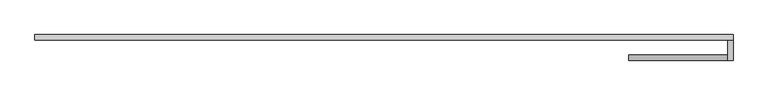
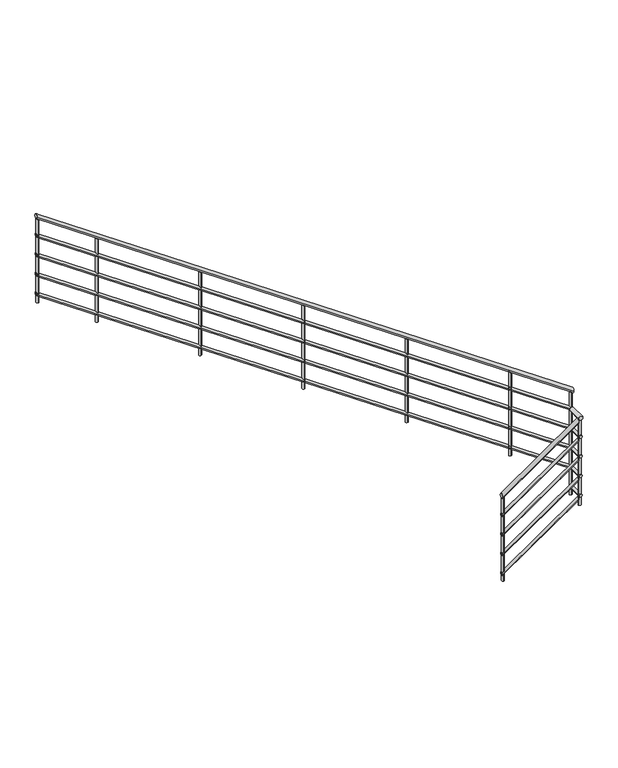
"""IFC4 building model written with IfcOpenShell, lengths in millimetres: railing geometry, r パイプ H900."""

from ifc_helpers import new_model, si_unit, point, frame, frame_2d, origin, place, context, project, spatial, circle_curve, ellipse_curve, trimmed, segment, composite_curve, outline, extrude, source, transform, mapped, element, save
from ifc_brep_helpers import plane_surface, cylinder_surface, advanced_brep


def railing_328e5c47(model_context):
    return source(origin(), model_context, "Body", "SolidModel", [
        advanced_brep(
        [(-1975.9784025, 8754.6868987, 1155.6747872), (-1975.9784025, 8794.6868987, 1155.6747872), (-1240.9784025, 8754.6868987, 1664.5209411), (-1240.9784025, 8794.6868987, 1664.5209411)],
        [
            (0, 1, ellipse_curve(frame((-1975.9784025, 8774.6868987, 1155.6747872), z_axis=(-1.0, 0.0, 0.0), x_axis=(0.0, 0.0, -1.0)), 24.3252128, 20.0)),
            (1, 0, ellipse_curve(frame((-1975.9784025, 8774.6868987, 1155.6747872), z_axis=(-1.0, 0.0, 0.0), x_axis=(0.0, 0.0, -1.0)), 24.3252128, 20.0)),
            (2, 3, ellipse_curve(frame((-1240.9784025, 8774.6868987, 1664.5209411), z_axis=(1.0, 0.0, 0.0), x_axis=(0.0, 0.0, -1.0)), 24.3252128, 20.0)),
            (3, 2, ellipse_curve(frame((-1240.9784025, 8774.6868987, 1664.5209411), z_axis=(1.0, 0.0, 0.0), x_axis=(0.0, 0.0, -1.0)), 24.3252128, 20.0)),
            (0, 2),
            (3, 1),
        ],
        [
            plane_surface(frame((-1975.9784025, 8774.6868987, 1180.0), z_axis=(-1.0, 0.0, 0.0), x_axis=(0.0, 1.0, 0.0))),
            plane_surface(frame((-1240.9784025, 8774.6868987, 1688.8461538), z_axis=(1.0, 0.0, 0.0), x_axis=(0.0, 1.0, 0.0))),
            cylinder_surface(frame((-1964.5942029, 8774.6868987, 1163.5561562), z_axis=(-0.8221921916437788, 0.0, -0.5692099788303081), x_axis=(0.0, 1.0, 0.0)), 20.0),
        ],
        [
            (0, [[1, 2]]),
            (1, [[3, 4]]),
            (2, [[-1, 5, -4, 6]]),
            (2, [[-2, -6, -3, -5]]),
        ],
    ),
        advanced_brep(
        [(-1200.9784025, 8754.6868987, 1700.0), (-1240.9784025, 8754.6868987, 1700.0), (-1200.9784025, 8904.6868987, 1700.0), (-1240.9784025, 8904.6868987, 1700.0)],
        [
            (0, 1, circle_curve(frame((-1220.9784025, 8754.6868987, 1700.0), z_axis=(0.0, -1.0, 0.0), x_axis=(-1.0, 0.0, 0.0)), 20.0)),
            (1, 0, circle_curve(frame((-1220.9784025, 8754.6868987, 1700.0), z_axis=(0.0, -1.0, 0.0), x_axis=(-1.0, 0.0, 0.0)), 20.0)),
            (2, 3, circle_curve(frame((-1220.9784025, 8904.6868987, 1700.0), z_axis=(0.0, 1.0, 0.0), x_axis=(-1.0, 0.0, 0.0)), 20.0)),
            (3, 2, circle_curve(frame((-1220.9784025, 8904.6868987, 1700.0), z_axis=(0.0, 1.0, 0.0), x_axis=(-1.0, 0.0, 0.0)), 20.0)),
            (0, 2),
            (3, 1),
        ],
        [
            plane_surface(frame((-1220.9784025, 8754.6868987, 1720.0), z_axis=(0.0, -1.0, 0.0), x_axis=(0.0, 0.0, 1.0))),
            plane_surface(frame((-1220.9784025, 8904.6868987, 1720.0), z_axis=(0.0, 1.0, 0.0), x_axis=(0.0, 0.0, 1.0))),
            cylinder_surface(frame((-1220.9784025, 8754.6868987, 1700.0), z_axis=(0.0, -1.0, 0.0), x_axis=(-1.0, 0.0, 0.0)), 20.0),
        ],
        [
            (0, [[1, 2]]),
            (1, [[3, 4]]),
            (2, [[-1, 5, -4, 6]]),
            (2, [[-2, -6, -3, -5]]),
        ],
    ),
        advanced_brep(
        [(-1200.9784025, 8944.6868987, 1879.1363257), (-1200.9784025, 8904.6868987, 1879.1363257), (-6395.9784025, 8944.6868987, 5475.6747872), (-6395.9784025, 8904.6868987, 5475.6747872)],
        [
            (0, 1, ellipse_curve(frame((-1200.9784025, 8924.6868987, 1879.1363257), z_axis=(1.0, 0.0, 0.0), x_axis=(0.0, 0.0, -1.0)), 24.3252128, 20.0)),
            (1, 0, ellipse_curve(frame((-1200.9784025, 8924.6868987, 1879.1363257), z_axis=(1.0, 0.0, 0.0), x_axis=(0.0, 0.0, -1.0)), 24.3252128, 20.0)),
            (2, 3, ellipse_curve(frame((-6395.9784025, 8924.6868987, 5475.6747872), z_axis=(-1.0, 0.0, 0.0), x_axis=(0.0, 0.0, -1.0)), 24.3252128, 20.0)),
            (3, 2, ellipse_curve(frame((-6395.9784025, 8924.6868987, 5475.6747872), z_axis=(-1.0, 0.0, 0.0), x_axis=(0.0, 0.0, -1.0)), 24.3252128, 20.0)),
            (0, 2),
            (3, 1),
        ],
        [
            plane_surface(frame((-1200.9784025, 8924.6868987, 1903.4615385), z_axis=(1.0, 0.0, 0.0), x_axis=(0.0, -1.0, 0.0))),
            plane_surface(frame((-6395.9784025, 8924.6868987, 5500.0), z_axis=(-1.0, 0.0, 0.0), x_axis=(0.0, -1.0, 0.0))),
            cylinder_surface(frame((-1212.3626021, 8924.6868987, 1887.0176946), z_axis=(0.8221921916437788, 0.0, -0.5692099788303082), x_axis=(0.0, -1.0, 0.0)), 20.0),
        ],
        [
            (0, [[1, 2]]),
            (1, [[3, 4]]),
            (2, [[-1, 5, -4, 6]]),
            (2, [[-2, -6, -3, -5]]),
        ],
    ),
        advanced_brep(
        [(-1975.9784025, 8759.6868987, 961.7560904), (-1975.9784025, 8789.6868987, 961.7560904), (-1235.9784025, 8759.6868987, 1474.0637827), (-1235.9784025, 8789.6868987, 1474.0637827)],
        [
            (0, 1, ellipse_curve(frame((-1975.9784025, 8774.6868987, 961.7560904), z_axis=(-1.0, 0.0, 0.0), x_axis=(0.0, 0.0, -1.0)), 18.2439096, 15.0)),
            (1, 0, ellipse_curve(frame((-1975.9784025, 8774.6868987, 961.7560904), z_axis=(-1.0, 0.0, 0.0), x_axis=(0.0, 0.0, -1.0)), 18.2439096, 15.0)),
            (2, 3, ellipse_curve(frame((-1235.9784025, 8774.6868987, 1474.0637827), z_axis=(1.0, 0.0, 0.0), x_axis=(0.0, 0.0, -1.0)), 18.2439096, 15.0)),
            (3, 2, ellipse_curve(frame((-1235.9784025, 8774.6868987, 1474.0637827), z_axis=(1.0, 0.0, 0.0), x_axis=(0.0, 0.0, -1.0)), 18.2439096, 15.0)),
            (0, 2),
            (3, 1),
        ],
        [
            plane_surface(frame((-1975.9784025, 8774.6868987, 980.0), z_axis=(-1.0, 0.0, 0.0), x_axis=(0.0, 1.0, 0.0))),
            plane_surface(frame((-1235.9784025, 8774.6868987, 1492.3076923), z_axis=(1.0, 0.0, 0.0), x_axis=(0.0, 1.0, 0.0))),
            cylinder_surface(frame((-1967.4402528, 8774.6868987, 967.6671171), z_axis=(-0.8221921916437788, 0.0, -0.5692099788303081), x_axis=(0.0, 1.0, 0.0)), 15.0),
        ],
        [
            (0, [[1, 2]]),
            (1, [[3, 4]]),
            (2, [[-1, 5, -4, 6]]),
            (2, [[-2, -6, -3, -5]]),
        ],
    ),
        advanced_brep(
        [(-1205.9784025, 8759.6868987, 1505.0), (-1235.9784025, 8759.6868987, 1505.0), (-1205.9784025, 8909.6868987, 1505.0), (-1235.9784025, 8909.6868987, 1505.0)],
        [
            (0, 1, circle_curve(frame((-1220.9784025, 8759.6868987, 1505.0), z_axis=(0.0, -1.0, 0.0), x_axis=(-1.0, 0.0, 0.0)), 15.0)),
            (1, 0, circle_curve(frame((-1220.9784025, 8759.6868987, 1505.0), z_axis=(0.0, -1.0, 0.0), x_axis=(-1.0, 0.0, 0.0)), 15.0)),
            (2, 3, circle_curve(frame((-1220.9784025, 8909.6868987, 1505.0), z_axis=(0.0, 1.0, 0.0), x_axis=(-1.0, 0.0, 0.0)), 15.0)),
            (3, 2, circle_curve(frame((-1220.9784025, 8909.6868987, 1505.0), z_axis=(0.0, 1.0, 0.0), x_axis=(-1.0, 0.0, 0.0)), 15.0)),
            (0, 2),
            (3, 1),
        ],
        [
            plane_surface(frame((-1220.9784025, 8759.6868987, 1520.0), z_axis=(0.0, -1.0, 0.0), x_axis=(0.0, 0.0, 1.0))),
            plane_surface(frame((-1220.9784025, 8909.6868987, 1520.0), z_axis=(0.0, 1.0, 0.0), x_axis=(0.0, 0.0, 1.0))),
            cylinder_surface(frame((-1220.9784025, 8759.6868987, 1505.0), z_axis=(0.0, -1.0, 0.0), x_axis=(-1.0, 0.0, 0.0)), 15.0),
        ],
        [
            (0, [[1, 2]]),
            (1, [[3, 4]]),
            (2, [[-1, 5, -4, 6]]),
            (2, [[-2, -6, -3, -5]]),
        ],
    ),
        advanced_brep(
        [(-1205.9784025, 8939.6868987, 1688.6791673), (-1205.9784025, 8909.6868987, 1688.6791673), (-6395.9784025, 8939.6868987, 5281.7560904), (-6395.9784025, 8909.6868987, 5281.7560904)],
        [
            (0, 1, ellipse_curve(frame((-1205.9784025, 8924.6868987, 1688.6791673), z_axis=(1.0, 0.0, 0.0), x_axis=(0.0, 0.0, -1.0)), 18.2439096, 15.0)),
            (1, 0, ellipse_curve(frame((-1205.9784025, 8924.6868987, 1688.6791673), z_axis=(1.0, 0.0, 0.0), x_axis=(0.0, 0.0, -1.0)), 18.2439096, 15.0)),
            (2, 3, ellipse_curve(frame((-6395.9784025, 8924.6868987, 5281.7560904), z_axis=(-1.0, 0.0, 0.0), x_axis=(0.0, 0.0, -1.0)), 18.2439096, 15.0)),
            (3, 2, ellipse_curve(frame((-6395.9784025, 8924.6868987, 5281.7560904), z_axis=(-1.0, 0.0, 0.0), x_axis=(0.0, 0.0, -1.0)), 18.2439096, 15.0)),
            (0, 2),
            (3, 1),
        ],
        [
            plane_surface(frame((-1205.9784025, 8924.6868987, 1706.9230769), z_axis=(1.0, 0.0, 0.0), x_axis=(0.0, -1.0, 0.0))),
            plane_surface(frame((-6395.9784025, 8924.6868987, 5300.0), z_axis=(-1.0, 0.0, 0.0), x_axis=(0.0, -1.0, 0.0))),
            cylinder_surface(frame((-1214.5165522, 8924.6868987, 1694.590194), z_axis=(0.8221921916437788, 0.0, -0.5692099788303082), x_axis=(0.0, -1.0, 0.0)), 15.0),
        ],
        [
            (0, [[1, 2]]),
            (1, [[3, 4]]),
            (2, [[-1, 5, -4, 6]]),
            (2, [[-2, -6, -3, -5]]),
        ],
    ),
        advanced_brep(
        [(-1975.9784025, 8759.6868987, 761.7560904), (-1975.9784025, 8789.6868987, 761.7560904), (-1235.9784025, 8759.6868987, 1274.0637827), (-1235.9784025, 8789.6868987, 1274.0637827)],
        [
            (0, 1, ellipse_curve(frame((-1975.9784025, 8774.6868987, 761.7560904), z_axis=(-1.0, 0.0, 0.0), x_axis=(0.0, 0.0, -1.0)), 18.2439096, 15.0)),
            (1, 0, ellipse_curve(frame((-1975.9784025, 8774.6868987, 761.7560904), z_axis=(-1.0, 0.0, 0.0), x_axis=(0.0, 0.0, -1.0)), 18.2439096, 15.0)),
            (2, 3, ellipse_curve(frame((-1235.9784025, 8774.6868987, 1274.0637827), z_axis=(1.0, 0.0, 0.0), x_axis=(0.0, 0.0, -1.0)), 18.2439096, 15.0)),
            (3, 2, ellipse_curve(frame((-1235.9784025, 8774.6868987, 1274.0637827), z_axis=(1.0, 0.0, 0.0), x_axis=(0.0, 0.0, -1.0)), 18.2439096, 15.0)),
            (0, 2),
            (3, 1),
        ],
        [
            plane_surface(frame((-1975.9784025, 8774.6868987, 780.0), z_axis=(-1.0, 0.0, 0.0), x_axis=(0.0, 1.0, 0.0))),
            plane_surface(frame((-1235.9784025, 8774.6868987, 1292.3076923), z_axis=(1.0, 0.0, 0.0), x_axis=(0.0, 1.0, 0.0))),
            cylinder_surface(frame((-1967.4402528, 8774.6868987, 767.6671171), z_axis=(-0.8221921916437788, 0.0, -0.5692099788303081), x_axis=(0.0, 1.0, 0.0)), 15.0),
        ],
        [
            (0, [[1, 2]]),
            (1, [[3, 4]]),
            (2, [[-1, 5, -4, 6]]),
            (2, [[-2, -6, -3, -5]]),
        ],
    ),
        advanced_brep(
        [(-1205.9784025, 8759.6868987, 1305.0), (-1235.9784025, 8759.6868987, 1305.0), (-1205.9784025, 8909.6868987, 1305.0), (-1235.9784025, 8909.6868987, 1305.0)],
        [
            (0, 1, circle_curve(frame((-1220.9784025, 8759.6868987, 1305.0), z_axis=(0.0, -1.0, 0.0), x_axis=(-1.0, 0.0, 0.0)), 15.0)),
            (1, 0, circle_curve(frame((-1220.9784025, 8759.6868987, 1305.0), z_axis=(0.0, -1.0, 0.0), x_axis=(-1.0, 0.0, 0.0)), 15.0)),
            (2, 3, circle_curve(frame((-1220.9784025, 8909.6868987, 1305.0), z_axis=(0.0, 1.0, 0.0), x_axis=(-1.0, 0.0, 0.0)), 15.0)),
            (3, 2, circle_curve(frame((-1220.9784025, 8909.6868987, 1305.0), z_axis=(0.0, 1.0, 0.0), x_axis=(-1.0, 0.0, 0.0)), 15.0)),
            (0, 2),
            (3, 1),
        ],
        [
            plane_surface(frame((-1220.9784025, 8759.6868987, 1320.0), z_axis=(0.0, -1.0, 0.0), x_axis=(0.0, 0.0, 1.0))),
            plane_surface(frame((-1220.9784025, 8909.6868987, 1320.0), z_axis=(0.0, 1.0, 0.0), x_axis=(0.0, 0.0, 1.0))),
            cylinder_surface(frame((-1220.9784025, 8759.6868987, 1305.0), z_axis=(0.0, -1.0, 0.0), x_axis=(-1.0, 0.0, 0.0)), 15.0),
        ],
        [
            (0, [[1, 2]]),
            (1, [[3, 4]]),
            (2, [[-1, 5, -4, 6]]),
            (2, [[-2, -6, -3, -5]]),
        ],
    ),
        advanced_brep(
        [(-1205.9784025, 8939.6868987, 1488.6791673), (-1205.9784025, 8909.6868987, 1488.6791673), (-6395.9784025, 8939.6868987, 5081.7560904), (-6395.9784025, 8909.6868987, 5081.7560904)],
        [
            (0, 1, ellipse_curve(frame((-1205.9784025, 8924.6868987, 1488.6791673), z_axis=(1.0, 0.0, 0.0), x_axis=(0.0, 0.0, -1.0)), 18.2439096, 15.0)),
            (1, 0, ellipse_curve(frame((-1205.9784025, 8924.6868987, 1488.6791673), z_axis=(1.0, 0.0, 0.0), x_axis=(0.0, 0.0, -1.0)), 18.2439096, 15.0)),
            (2, 3, ellipse_curve(frame((-6395.9784025, 8924.6868987, 5081.7560904), z_axis=(-1.0, 0.0, 0.0), x_axis=(0.0, 0.0, -1.0)), 18.2439096, 15.0)),
            (3, 2, ellipse_curve(frame((-6395.9784025, 8924.6868987, 5081.7560904), z_axis=(-1.0, 0.0, 0.0), x_axis=(0.0, 0.0, -1.0)), 18.2439096, 15.0)),
            (0, 2),
            (3, 1),
        ],
        [
            plane_surface(frame((-1205.9784025, 8924.6868987, 1506.9230769), z_axis=(1.0, 0.0, 0.0), x_axis=(0.0, -1.0, 0.0))),
            plane_surface(frame((-6395.9784025, 8924.6868987, 5100.0), z_axis=(-1.0, 0.0, 0.0), x_axis=(0.0, -1.0, 0.0))),
            cylinder_surface(frame((-1214.5165522, 8924.6868987, 1494.590194), z_axis=(0.8221921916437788, 0.0, -0.5692099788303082), x_axis=(0.0, -1.0, 0.0)), 15.0),
        ],
        [
            (0, [[1, 2]]),
            (1, [[3, 4]]),
            (2, [[-1, 5, -4, 6]]),
            (2, [[-2, -6, -3, -5]]),
        ],
    ),
        advanced_brep(
        [(-1975.9784025, 8759.6868987, 561.7560904), (-1975.9784025, 8789.6868987, 561.7560904), (-1235.9784025, 8759.6868987, 1074.0637827), (-1235.9784025, 8789.6868987, 1074.0637827)],
        [
            (0, 1, ellipse_curve(frame((-1975.9784025, 8774.6868987, 561.7560904), z_axis=(-1.0, 0.0, 0.0), x_axis=(0.0, 0.0, -1.0)), 18.2439096, 15.0)),
            (1, 0, ellipse_curve(frame((-1975.9784025, 8774.6868987, 561.7560904), z_axis=(-1.0, 0.0, 0.0), x_axis=(0.0, 0.0, -1.0)), 18.2439096, 15.0)),
            (2, 3, ellipse_curve(frame((-1235.9784025, 8774.6868987, 1074.0637827), z_axis=(1.0, 0.0, 0.0), x_axis=(0.0, 0.0, -1.0)), 18.2439096, 15.0)),
            (3, 2, ellipse_curve(frame((-1235.9784025, 8774.6868987, 1074.0637827), z_axis=(1.0, 0.0, 0.0), x_axis=(0.0, 0.0, -1.0)), 18.2439096, 15.0)),
            (0, 2),
            (3, 1),
        ],
        [
            plane_surface(frame((-1975.9784025, 8774.6868987, 580.0), z_axis=(-1.0, 0.0, 0.0), x_axis=(0.0, 1.0, 0.0))),
            plane_surface(frame((-1235.9784025, 8774.6868987, 1092.3076923), z_axis=(1.0, 0.0, 0.0), x_axis=(0.0, 1.0, 0.0))),
            cylinder_surface(frame((-1967.4402528, 8774.6868987, 567.6671171), z_axis=(-0.8221921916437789, 0.0, -0.5692099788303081), x_axis=(0.0, 1.0, 0.0)), 15.0),
        ],
        [
            (0, [[1, 2]]),
            (1, [[3, 4]]),
            (2, [[-1, 5, -4, 6]]),
            (2, [[-2, -6, -3, -5]]),
        ],
    ),
        advanced_brep(
        [(-1205.9784025, 8759.6868987, 1105.0), (-1235.9784025, 8759.6868987, 1105.0), (-1205.9784025, 8909.6868987, 1105.0), (-1235.9784025, 8909.6868987, 1105.0)],
        [
            (0, 1, circle_curve(frame((-1220.9784025, 8759.6868987, 1105.0), z_axis=(0.0, -1.0, 0.0), x_axis=(-1.0, 0.0, 0.0)), 15.0)),
            (1, 0, circle_curve(frame((-1220.9784025, 8759.6868987, 1105.0), z_axis=(0.0, -1.0, 0.0), x_axis=(-1.0, 0.0, 0.0)), 15.0)),
            (2, 3, circle_curve(frame((-1220.9784025, 8909.6868987, 1105.0), z_axis=(0.0, 1.0, 0.0), x_axis=(-1.0, 0.0, 0.0)), 15.0)),
            (3, 2, circle_curve(frame((-1220.9784025, 8909.6868987, 1105.0), z_axis=(0.0, 1.0, 0.0), x_axis=(-1.0, 0.0, 0.0)), 15.0)),
            (0, 2),
            (3, 1),
        ],
        [
            plane_surface(frame((-1220.9784025, 8759.6868987, 1120.0), z_axis=(0.0, -1.0, 0.0), x_axis=(0.0, 0.0, 1.0))),
            plane_surface(frame((-1220.9784025, 8909.6868987, 1120.0), z_axis=(0.0, 1.0, 0.0), x_axis=(0.0, 0.0, 1.0))),
            cylinder_surface(frame((-1220.9784025, 8759.6868987, 1105.0), z_axis=(0.0, -1.0, 0.0), x_axis=(-1.0, 0.0, 0.0)), 15.0),
        ],
        [
            (0, [[1, 2]]),
            (1, [[3, 4]]),
            (2, [[-1, 5, -4, 6]]),
            (2, [[-2, -6, -3, -5]]),
        ],
    ),
        advanced_brep(
        [(-1205.9784025, 8939.6868987, 1288.6791673), (-1205.9784025, 8909.6868987, 1288.6791673), (-6395.9784025, 8939.6868987, 4881.7560904), (-6395.9784025, 8909.6868987, 4881.7560904)],
        [
            (0, 1, ellipse_curve(frame((-1205.9784025, 8924.6868987, 1288.6791673), z_axis=(1.0, 0.0, 0.0), x_axis=(0.0, 0.0, -1.0)), 18.2439096, 15.0)),
            (1, 0, ellipse_curve(frame((-1205.9784025, 8924.6868987, 1288.6791673), z_axis=(1.0, 0.0, 0.0), x_axis=(0.0, 0.0, -1.0)), 18.2439096, 15.0)),
            (2, 3, ellipse_curve(frame((-6395.9784025, 8924.6868987, 4881.7560904), z_axis=(-1.0, 0.0, 0.0), x_axis=(0.0, 0.0, -1.0)), 18.2439096, 15.0)),
            (3, 2, ellipse_curve(frame((-6395.9784025, 8924.6868987, 4881.7560904), z_axis=(-1.0, 0.0, 0.0), x_axis=(0.0, 0.0, -1.0)), 18.2439096, 15.0)),
            (0, 2),
            (3, 1),
        ],
        [
            plane_surface(frame((-1205.9784025, 8924.6868987, 1306.9230769), z_axis=(1.0, 0.0, 0.0), x_axis=(0.0, -1.0, 0.0))),
            plane_surface(frame((-6395.9784025, 8924.6868987, 4900.0), z_axis=(-1.0, 0.0, 0.0), x_axis=(0.0, -1.0, 0.0))),
            cylinder_surface(frame((-1214.5165522, 8924.6868987, 1294.590194), z_axis=(0.8221921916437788, 0.0, -0.5692099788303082), x_axis=(0.0, -1.0, 0.0)), 15.0),
        ],
        [
            (0, [[1, 2]]),
            (1, [[3, 4]]),
            (2, [[-1, 5, -4, 6]]),
            (2, [[-2, -6, -3, -5]]),
        ],
    ),
        advanced_brep(
        [(-1975.9784025, 8759.6868987, 361.7560904), (-1975.9784025, 8789.6868987, 361.7560904), (-1235.9784025, 8759.6868987, 874.0637827), (-1235.9784025, 8789.6868987, 874.0637827)],
        [
            (0, 1, ellipse_curve(frame((-1975.9784025, 8774.6868987, 361.7560904), z_axis=(-1.0, 0.0, 0.0), x_axis=(0.0, 0.0, -1.0)), 18.2439096, 15.0)),
            (1, 0, ellipse_curve(frame((-1975.9784025, 8774.6868987, 361.7560904), z_axis=(-1.0, 0.0, 0.0), x_axis=(0.0, 0.0, -1.0)), 18.2439096, 15.0)),
            (2, 3, ellipse_curve(frame((-1235.9784025, 8774.6868987, 874.0637827), z_axis=(1.0, 0.0, 0.0), x_axis=(0.0, 0.0, -1.0)), 18.2439096, 15.0)),
            (3, 2, ellipse_curve(frame((-1235.9784025, 8774.6868987, 874.0637827), z_axis=(1.0, 0.0, 0.0), x_axis=(0.0, 0.0, -1.0)), 18.2439096, 15.0)),
            (0, 2),
            (3, 1),
        ],
        [
            plane_surface(frame((-1975.9784025, 8774.6868987, 380.0), z_axis=(-1.0, 0.0, 0.0), x_axis=(0.0, 1.0, 0.0))),
            plane_surface(frame((-1235.9784025, 8774.6868987, 892.3076923), z_axis=(1.0, 0.0, 0.0), x_axis=(0.0, 1.0, 0.0))),
            cylinder_surface(frame((-1967.4402528, 8774.6868987, 367.6671171), z_axis=(-0.8221921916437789, 0.0, -0.5692099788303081), x_axis=(0.0, 1.0, 0.0)), 15.0),
        ],
        [
            (0, [[1, 2]]),
            (1, [[3, 4]]),
            (2, [[-1, 5, -4, 6]]),
            (2, [[-2, -6, -3, -5]]),
        ],
    ),
        advanced_brep(
        [(-1205.9784025, 8759.6868987, 905.0), (-1235.9784025, 8759.6868987, 905.0), (-1205.9784025, 8909.6868987, 905.0), (-1235.9784025, 8909.6868987, 905.0)],
        [
            (0, 1, circle_curve(frame((-1220.9784025, 8759.6868987, 905.0), z_axis=(0.0, -1.0, 0.0), x_axis=(-1.0, 0.0, 0.0)), 15.0)),
            (1, 0, circle_curve(frame((-1220.9784025, 8759.6868987, 905.0), z_axis=(0.0, -1.0, 0.0), x_axis=(-1.0, 0.0, 0.0)), 15.0)),
            (2, 3, circle_curve(frame((-1220.9784025, 8909.6868987, 905.0), z_axis=(0.0, 1.0, 0.0), x_axis=(-1.0, 0.0, 0.0)), 15.0)),
            (3, 2, circle_curve(frame((-1220.9784025, 8909.6868987, 905.0), z_axis=(0.0, 1.0, 0.0), x_axis=(-1.0, 0.0, 0.0)), 15.0)),
            (0, 2),
            (3, 1),
        ],
        [
            plane_surface(frame((-1220.9784025, 8759.6868987, 920.0), z_axis=(0.0, -1.0, 0.0), x_axis=(0.0, 0.0, 1.0))),
            plane_surface(frame((-1220.9784025, 8909.6868987, 920.0), z_axis=(0.0, 1.0, 0.0), x_axis=(0.0, 0.0, 1.0))),
            cylinder_surface(frame((-1220.9784025, 8759.6868987, 905.0), z_axis=(0.0, -1.0, 0.0), x_axis=(-1.0, 0.0, 0.0)), 15.0),
        ],
        [
            (0, [[1, 2]]),
            (1, [[3, 4]]),
            (2, [[-1, 5, -4, 6]]),
            (2, [[-2, -6, -3, -5]]),
        ],
    ),
        advanced_brep(
        [(-1205.9784025, 8939.6868987, 1088.6791673), (-1205.9784025, 8909.6868987, 1088.6791673), (-6395.9784025, 8939.6868987, 4681.7560904), (-6395.9784025, 8909.6868987, 4681.7560904)],
        [
            (0, 1, ellipse_curve(frame((-1205.9784025, 8924.6868987, 1088.6791673), z_axis=(1.0, 0.0, 0.0), x_axis=(0.0, 0.0, -1.0)), 18.2439096, 15.0)),
            (1, 0, ellipse_curve(frame((-1205.9784025, 8924.6868987, 1088.6791673), z_axis=(1.0, 0.0, 0.0), x_axis=(0.0, 0.0, -1.0)), 18.2439096, 15.0)),
            (2, 3, ellipse_curve(frame((-6395.9784025, 8924.6868987, 4681.7560904), z_axis=(-1.0, 0.0, 0.0), x_axis=(0.0, 0.0, -1.0)), 18.2439096, 15.0)),
            (3, 2, ellipse_curve(frame((-6395.9784025, 8924.6868987, 4681.7560904), z_axis=(-1.0, 0.0, 0.0), x_axis=(0.0, 0.0, -1.0)), 18.2439096, 15.0)),
            (0, 2),
            (3, 1),
        ],
        [
            plane_surface(frame((-1205.9784025, 8924.6868987, 1106.9230769), z_axis=(1.0, 0.0, 0.0), x_axis=(0.0, -1.0, 0.0))),
            plane_surface(frame((-6395.9784025, 8924.6868987, 4700.0), z_axis=(-1.0, 0.0, 0.0), x_axis=(0.0, -1.0, 0.0))),
            cylinder_surface(frame((-1214.5165522, 8924.6868987, 1094.590194), z_axis=(0.8221921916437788, 0.0, -0.5692099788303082), x_axis=(0.0, -1.0, 0.0)), 15.0),
        ],
        [
            (0, [[1, 2]]),
            (1, [[3, 4]]),
            (2, [[-1, 5, -4, 6]]),
            (2, [[-2, -6, -3, -5]]),
        ],
    ),
        advanced_brep(
        [(-5808.4784025, 8912.1868987, 5044.6188052), (-5808.4784025, 8937.1868987, 5044.6188052), (-5808.4784025, 8937.1868987, 4193.2692308), (-5808.4784025, 8912.1868987, 4193.2692308)],
        [
            (0, 1, ellipse_curve(frame((-5808.4784025, 8924.6868987, 5044.6188052), z_axis=(-0.569209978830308, 0.0, -0.8221921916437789), x_axis=(-0.8221921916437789, 0.0, 0.5692099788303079)), 15.203258, 12.5)),
            (1, 2),
            (2, 3, circle_curve(frame((-5808.4784025, 8924.6868987, 4193.2692308), z_axis=(0.0, 0.0, 1.0), x_axis=(0.0, 1.0, 0.0)), 12.5)),
            (3, 0),
            (3, 2, circle_curve(frame((-5808.4784025, 8924.6868987, 4193.2692308), z_axis=(0.0, 0.0, 1.0), x_axis=(0.0, 1.0, 0.0)), 12.5)),
            (1, 0, ellipse_curve(frame((-5808.4784025, 8924.6868987, 5044.6188052), z_axis=(-0.569209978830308, 0.0, -0.8221921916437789), x_axis=(-0.8221921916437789, 0.0, 0.5692099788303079)), 15.203258, 12.5)),
        ],
        [
            cylinder_surface(frame((-5808.4784025, 8924.6868987, 4093.2692308), z_axis=(0.0, 0.0, 1.0), x_axis=(0.0, 1.0, 0.0)), 12.5),
            plane_surface(frame((-5833.4784025, 8949.6868987, 5061.9264975), z_axis=(0.569209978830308, 0.0, 0.8221921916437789), x_axis=(0.0, -1.0, 0.0))),
            plane_surface(frame((-5783.4784025, 8949.6868987, 4193.2692308), z_axis=(0.0, 0.0, -1.0), x_axis=(0.0, -1.0, 0.0))),
        ],
        [
            (0, [[1, 2, 3, 4]]),
            (0, [[5, -2, 6, -4]]),
            (1, [[-6, -1]]),
            (2, [[-5, -3]]),
        ],
    ),
        advanced_brep(
        [(-4808.4784025, 8912.1868987, 4352.3111129), (-4808.4784025, 8937.1868987, 4352.3111129), (-4808.4784025, 8937.1868987, 3500.9615385), (-4808.4784025, 8912.1868987, 3500.9615385)],
        [
            (0, 1, ellipse_curve(frame((-4808.4784025, 8924.6868987, 4352.3111129), z_axis=(-0.569209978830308, 0.0, -0.8221921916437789), x_axis=(-0.8221921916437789, 0.0, 0.5692099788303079)), 15.203258, 12.5)),
            (1, 2),
            (2, 3, circle_curve(frame((-4808.4784025, 8924.6868987, 3500.9615385), z_axis=(0.0, 0.0, 1.0), x_axis=(0.0, 1.0, 0.0)), 12.5)),
            (3, 0),
            (3, 2, circle_curve(frame((-4808.4784025, 8924.6868987, 3500.9615385), z_axis=(0.0, 0.0, 1.0), x_axis=(0.0, 1.0, 0.0)), 12.5)),
            (1, 0, ellipse_curve(frame((-4808.4784025, 8924.6868987, 4352.3111129), z_axis=(-0.569209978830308, 0.0, -0.8221921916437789), x_axis=(-0.8221921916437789, 0.0, 0.5692099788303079)), 15.203258, 12.5)),
        ],
        [
            cylinder_surface(frame((-4808.4784025, 8924.6868987, 3400.9615385), z_axis=(0.0, 0.0, 1.0), x_axis=(0.0, 1.0, 0.0)), 12.5),
            plane_surface(frame((-4833.4784025, 8949.6868987, 4369.6188052), z_axis=(0.569209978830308, 0.0, 0.8221921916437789), x_axis=(0.0, -1.0, 0.0))),
            plane_surface(frame((-4783.4784025, 8949.6868987, 3500.9615385), z_axis=(0.0, 0.0, -1.0), x_axis=(0.0, -1.0, 0.0))),
        ],
        [
            (0, [[1, 2, 3, 4]]),
            (0, [[5, -2, 6, -4]]),
            (1, [[-6, -1]]),
            (2, [[-5, -3]]),
        ],
    ),
        advanced_brep(
        [(-3808.4784025, 8912.1868987, 3660.0034206), (-3808.4784025, 8937.1868987, 3660.0034206), (-3808.4784025, 8937.1868987, 2808.6538462), (-3808.4784025, 8912.1868987, 2808.6538462)],
        [
            (0, 1, ellipse_curve(frame((-3808.4784025, 8924.6868987, 3660.0034206), z_axis=(-0.569209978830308, 0.0, -0.8221921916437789), x_axis=(-0.8221921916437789, 0.0, 0.5692099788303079)), 15.203258, 12.5)),
            (1, 2),
            (2, 3, circle_curve(frame((-3808.4784025, 8924.6868987, 2808.6538462), z_axis=(0.0, 0.0, 1.0), x_axis=(0.0, 1.0, 0.0)), 12.5)),
            (3, 0),
            (3, 2, circle_curve(frame((-3808.4784025, 8924.6868987, 2808.6538462), z_axis=(0.0, 0.0, 1.0), x_axis=(0.0, 1.0, 0.0)), 12.5)),
            (1, 0, ellipse_curve(frame((-3808.4784025, 8924.6868987, 3660.0034206), z_axis=(-0.569209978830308, 0.0, -0.8221921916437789), x_axis=(-0.8221921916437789, 0.0, 0.5692099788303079)), 15.203258, 12.5)),
        ],
        [
            cylinder_surface(frame((-3808.4784025, 8924.6868987, 2708.6538462), z_axis=(0.0, 0.0, 1.0), x_axis=(0.0, 1.0, 0.0)), 12.5),
            plane_surface(frame((-3833.4784025, 8949.6868987, 3677.3111129), z_axis=(0.569209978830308, 0.0, 0.8221921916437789), x_axis=(0.0, -1.0, 0.0))),
            plane_surface(frame((-3783.4784025, 8949.6868987, 2808.6538462), z_axis=(0.0, 0.0, -1.0), x_axis=(0.0, -1.0, 0.0))),
        ],
        [
            (0, [[1, 2, 3, 4]]),
            (0, [[5, -2, 6, -4]]),
            (1, [[-6, -1]]),
            (2, [[-5, -3]]),
        ],
    ),
        advanced_brep(
        [(-2808.4784025, 8912.1868987, 2967.6957283), (-2808.4784025, 8937.1868987, 2967.6957283), (-2808.4784025, 8937.1868987, 2116.3461538), (-2808.4784025, 8912.1868987, 2116.3461538)],
        [
            (0, 1, ellipse_curve(frame((-2808.4784025, 8924.6868987, 2967.6957283), z_axis=(-0.569209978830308, 0.0, -0.8221921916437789), x_axis=(-0.8221921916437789, 0.0, 0.5692099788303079)), 15.203258, 12.5)),
            (1, 2),
            (2, 3, circle_curve(frame((-2808.4784025, 8924.6868987, 2116.3461538), z_axis=(0.0, 0.0, 1.0), x_axis=(0.0, 1.0, 0.0)), 12.5)),
            (3, 0),
            (3, 2, circle_curve(frame((-2808.4784025, 8924.6868987, 2116.3461538), z_axis=(0.0, 0.0, 1.0), x_axis=(0.0, 1.0, 0.0)), 12.5)),
            (1, 0, ellipse_curve(frame((-2808.4784025, 8924.6868987, 2967.6957283), z_axis=(-0.569209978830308, 0.0, -0.8221921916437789), x_axis=(-0.8221921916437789, 0.0, 0.5692099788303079)), 15.203258, 12.5)),
        ],
        [
            cylinder_surface(frame((-2808.4784025, 8924.6868987, 2016.3461538), z_axis=(0.0, 0.0, 1.0), x_axis=(0.0, 1.0, 0.0)), 12.5),
            plane_surface(frame((-2833.4784025, 8949.6868987, 2985.0034206), z_axis=(0.569209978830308, 0.0, 0.8221921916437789), x_axis=(0.0, -1.0, 0.0))),
            plane_surface(frame((-2783.4784025, 8949.6868987, 2116.3461538), z_axis=(0.0, 0.0, -1.0), x_axis=(0.0, -1.0, 0.0))),
        ],
        [
            (0, [[1, 2, 3, 4]]),
            (0, [[5, -2, 6, -4]]),
            (1, [[-6, -1]]),
            (2, [[-5, -3]]),
        ],
    ),
        advanced_brep(
        [(-1808.4784025, 8912.1868987, 2275.388036), (-1808.4784025, 8937.1868987, 2275.388036), (-1808.4784025, 8937.1868987, 1424.0384615), (-1808.4784025, 8912.1868987, 1424.0384615)],
        [
            (0, 1, ellipse_curve(frame((-1808.4784025, 8924.6868987, 2275.388036), z_axis=(-0.569209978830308, 0.0, -0.8221921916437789), x_axis=(-0.8221921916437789, 0.0, 0.5692099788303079)), 15.203258, 12.5)),
            (1, 2),
            (2, 3, circle_curve(frame((-1808.4784025, 8924.6868987, 1424.0384615), z_axis=(0.0, 0.0, 1.0), x_axis=(0.0, 1.0, 0.0)), 12.5)),
            (3, 0),
            (3, 2, circle_curve(frame((-1808.4784025, 8924.6868987, 1424.0384615), z_axis=(0.0, 0.0, 1.0), x_axis=(0.0, 1.0, 0.0)), 12.5)),
            (1, 0, ellipse_curve(frame((-1808.4784025, 8924.6868987, 2275.388036), z_axis=(-0.569209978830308, 0.0, -0.8221921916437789), x_axis=(-0.8221921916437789, 0.0, 0.5692099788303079)), 15.203258, 12.5)),
        ],
        [
            cylinder_surface(frame((-1808.4784025, 8924.6868987, 1324.0384615), z_axis=(0.0, 0.0, 1.0), x_axis=(0.0, 1.0, 0.0)), 12.5),
            plane_surface(frame((-1833.4784025, 8949.6868987, 2292.6957283), z_axis=(0.569209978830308, 0.0, 0.8221921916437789), x_axis=(0.0, -1.0, 0.0))),
            plane_surface(frame((-1783.4784025, 8949.6868987, 1424.0384615), z_axis=(0.0, 0.0, -1.0), x_axis=(0.0, -1.0, 0.0))),
        ],
        [
            (0, [[1, 2, 3, 4]]),
            (0, [[5, -2, 6, -4]]),
            (1, [[-6, -1]]),
            (2, [[-5, -3]]),
        ],
    ),
        advanced_brep(
        [(-1220.9784025, 8912.1868987, 1868.6572668), (-1220.9784025, 8937.1868987, 1868.6572668), (-1220.9784025, 8937.1868987, 820.0), (-1220.9784025, 8912.1868987, 820.0)],
        [
            (0, 1, ellipse_curve(frame((-1220.9784025, 8924.6868987, 1868.6572668), z_axis=(-0.569209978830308, 0.0, -0.8221921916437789), x_axis=(-0.8221921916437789, 0.0, 0.5692099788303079)), 15.203258, 12.5)),
            (1, 2),
            (2, 3, circle_curve(frame((-1220.9784025, 8924.6868987, 820.0), z_axis=(0.0, 0.0, 1.0), x_axis=(0.0, 1.0, 0.0)), 12.5)),
            (3, 0),
            (3, 2, circle_curve(frame((-1220.9784025, 8924.6868987, 820.0), z_axis=(0.0, 0.0, 1.0), x_axis=(0.0, 1.0, 0.0)), 12.5)),
            (1, 0, ellipse_curve(frame((-1220.9784025, 8924.6868987, 1868.6572668), z_axis=(-0.569209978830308, 0.0, -0.8221921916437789), x_axis=(-0.8221921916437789, 0.0, 0.5692099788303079)), 15.203258, 12.5)),
        ],
        [
            cylinder_surface(frame((-1220.9784025, 8924.6868987, 720.0), z_axis=(0.0, 0.0, 1.0), x_axis=(0.0, 1.0, 0.0)), 12.5),
            plane_surface(frame((-1245.9784025, 8949.6868987, 1885.9649591), z_axis=(0.569209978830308, 0.0, 0.8221921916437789), x_axis=(0.0, -1.0, 0.0))),
            plane_surface(frame((-1195.9784025, 8949.6868987, 820.0), z_axis=(0.0, 0.0, -1.0), x_axis=(0.0, -1.0, 0.0))),
        ],
        [
            (0, [[1, 2, 3, 4]]),
            (0, [[5, -2, 6, -4]]),
            (1, [[-6, -1]]),
            (2, [[-5, -3]]),
        ],
    ),
        extrude(outline(composite_curve([segment(trimmed(circle_curve(frame_2d((-1220.9784025, 8774.6868987)), 12.5), [point((-1208.4784025, 8774.6868987))], [point((-1233.4784025, 8774.6868987))], False, "CARTESIAN"), True, "CONTINUOUS"), segment(trimmed(circle_curve(frame_2d((-1220.9784025, 8774.6868987)), 12.5), [point((-1233.4784025, 8774.6868987))], [point((-1208.4784025, 8774.6868987))], False, "CARTESIAN"), True, "CONTINUOUS")], self_intersect=False)), frame((0.0, 0.0, 802.6923077), z_axis=(0.0, 0.0, 1.0), x_axis=(1.0, 0.0, 0.0)), (0.0, 0.0, 1.0), 877.3076923),
        advanced_brep(
        [(-6383.7918036, 8912.1868987, 5442.9126983), (-6383.7918036, 8937.1868987, 5442.9126983), (-6383.7918036, 8937.1868987, 4591.5631238), (-6383.7918036, 8912.1868987, 4591.5631238)],
        [
            (0, 1, ellipse_curve(frame((-6383.7918036, 8924.6868987, 5442.9126983), z_axis=(-0.569209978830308, 0.0, -0.8221921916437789), x_axis=(-0.8221921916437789, 0.0, 0.5692099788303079)), 15.203258, 12.5)),
            (1, 2),
            (2, 3, circle_curve(frame((-6383.7918036, 8924.6868987, 4591.5631238), z_axis=(0.0, 0.0, 1.0), x_axis=(0.0, 1.0, 0.0)), 12.5)),
            (3, 0),
            (3, 2, circle_curve(frame((-6383.7918036, 8924.6868987, 4591.5631238), z_axis=(0.0, 0.0, 1.0), x_axis=(0.0, 1.0, 0.0)), 12.5)),
            (1, 0, ellipse_curve(frame((-6383.7918036, 8924.6868987, 5442.9126983), z_axis=(-0.569209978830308, 0.0, -0.8221921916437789), x_axis=(-0.8221921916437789, 0.0, 0.5692099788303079)), 15.203258, 12.5)),
        ],
        [
            cylinder_surface(frame((-6383.7918036, 8924.6868987, 4491.5631238), z_axis=(0.0, 0.0, 1.0), x_axis=(0.0, 1.0, 0.0)), 12.5),
            plane_surface(frame((-6408.7918036, 8949.6868987, 5460.2203906), z_axis=(0.569209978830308, 0.0, 0.8221921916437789), x_axis=(0.0, -1.0, 0.0))),
            plane_surface(frame((-6358.7918036, 8949.6868987, 4591.5631238), z_axis=(0.0, 0.0, -1.0), x_axis=(0.0, -1.0, 0.0))),
        ],
        [
            (0, [[1, 2, 3, 4]]),
            (0, [[5, -2, 6, -4]]),
            (1, [[-6, -1]]),
            (2, [[-5, -3]]),
        ],
    ),
        advanced_brep(
        [(-1963.7918036, 8787.1868987, 1139.7864506), (-1963.7918036, 8762.1868987, 1139.7864506), (-1963.7918036, 8762.1868987, 288.4368762), (-1963.7918036, 8787.1868987, 288.4368762)],
        [
            (0, 1, ellipse_curve(frame((-1963.7918036, 8774.6868987, 1139.7864506), z_axis=(0.569209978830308, 0.0, -0.8221921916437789), x_axis=(0.8221921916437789, 0.0, 0.5692099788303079)), 15.203258, 12.5)),
            (1, 2),
            (2, 3, circle_curve(frame((-1963.7918036, 8774.6868987, 288.4368762), z_axis=(0.0, 0.0, 1.0), x_axis=(0.0, -1.0, 0.0)), 12.5)),
            (3, 0),
            (3, 2, circle_curve(frame((-1963.7918036, 8774.6868987, 288.4368762), z_axis=(0.0, 0.0, 1.0), x_axis=(0.0, -1.0, 0.0)), 12.5)),
            (1, 0, ellipse_curve(frame((-1963.7918036, 8774.6868987, 1139.7864506), z_axis=(0.569209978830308, 0.0, -0.8221921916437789), x_axis=(0.8221921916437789, 0.0, 0.5692099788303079)), 15.203258, 12.5)),
        ],
        [
            cylinder_surface(frame((-1963.7918036, 8774.6868987, 188.4368762), z_axis=(0.0, 0.0, 1.0), x_axis=(0.0, -1.0, 0.0)), 12.5),
            plane_surface(frame((-1938.7918036, 8749.6868987, 1157.0941429), z_axis=(-0.569209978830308, 0.0, 0.8221921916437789), x_axis=(0.0, 1.0, 0.0))),
            plane_surface(frame((-1988.7918036, 8749.6868987, 288.4368762), z_axis=(0.0, 0.0, -1.0), x_axis=(0.0, 1.0, 0.0))),
        ],
        [
            (0, [[1, 2, 3, 4]]),
            (0, [[5, -2, 6, -4]]),
            (1, [[-6, -1]]),
            (2, [[-5, -3]]),
        ],
    ),
    ])


if __name__ == "__main__":
    model = new_model("IFC4")
    model_context = context("Model", 3, world=origin())
    ifc_project = project(units=[si_unit("LENGTHUNIT", "METRE", prefix="MILLI")], contexts=[model_context])
    site = spatial("IfcSite", under=ifc_project)
    building = spatial("IfcBuilding", under=site)
    placement = place(None, origin())
    railing_shape = railing_328e5c47(model_context)
    element("IfcRailing", 1, ObjectType="r パイプ H900", at=placement, inside=building, context=model_context, shape_type="MappedRepresentation", body=[
        mapped(railing_shape, transform((0.0, 0.0, 0.0), x_axis=(1.0, 0.0, 0.0), y_axis=(0.0, 1.0, 0.0), z_axis=(0.0, 0.0, 1.0))),
    ])
    save(model, "model.ifc")
